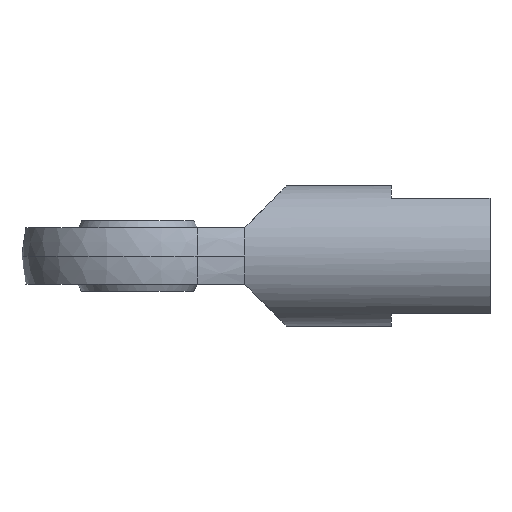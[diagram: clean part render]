
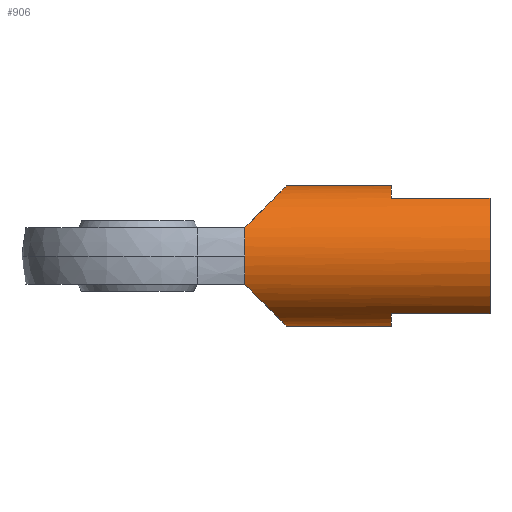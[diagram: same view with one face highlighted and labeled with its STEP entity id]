
A CAD part, front view. The second image highlights one B-rep face of the part: STEP entity #906.
In plain terms, the highlighted cylindrical face has radius 25 mm (diameter 50 mm), a partial arc.
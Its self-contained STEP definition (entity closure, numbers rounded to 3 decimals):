
#33 = CARTESIAN_POINT ( 'NONE',  ( 90., 0., -25. ) ) ;
#343 = DIRECTION ( 'NONE',  ( 1., 0., 0. ) ) ;
#344 = VECTOR ( 'NONE', #343, 1000. ) ;
#345 = CARTESIAN_POINT ( 'NONE',  ( 38., 0., 25. ) ) ;
#346 = LINE ( 'NONE', #345, #344 ) ;
#361 = CARTESIAN_POINT ( 'NONE',  ( 90., 0., 25. ) ) ;
#400 = DIRECTION ( 'NONE',  ( 1., 0., 0. ) ) ;
#401 = CARTESIAN_POINT ( 'NONE',  ( 38., 0., 0. ) ) ;
#402 = AXIS2_PLACEMENT_3D ( 'NONE', #401, #400, #414 ) ;
#403 = CIRCLE ( 'NONE', #402, 25. ) ;
#413 = CARTESIAN_POINT ( 'NONE',  ( 38., -25., 0. ) ) ;
#414 = DIRECTION ( 'NONE',  ( 0., 1., 0. ) ) ;
#429 = CARTESIAN_POINT ( 'NONE',  ( 38., -22.913, -10. ) ) ;
#751 = DIRECTION ( 'NONE',  ( 0., 0., 1. ) ) ;
#752 = DIRECTION ( 'NONE',  ( 1., 0., 0. ) ) ;
#753 = CARTESIAN_POINT ( 'NONE',  ( 90., 0., 0. ) ) ;
#754 = AXIS2_PLACEMENT_3D ( 'NONE', #753, #752, #751 ) ;
#755 = CIRCLE ( 'NONE', #754, 25. ) ;
#757 = CARTESIAN_POINT ( 'NONE',  ( 90., -14.309, -20.5 ) ) ;
#817 = ORIENTED_EDGE ( 'NONE', *, *, #825, .F. ) ;
#818 = ORIENTED_EDGE ( 'NONE', *, *, #946, .F. ) ;
#825 = EDGE_CURVE ( 'NONE', #945, #1322, #1399, .T. ) ;
#875 = ORIENTED_EDGE ( 'NONE', *, *, #1121, .T. ) ;
#876 = ORIENTED_EDGE ( 'NONE', *, *, #877, .F. ) ;
#877 = EDGE_CURVE ( 'NONE', #1019, #1130, #1401, .T. ) ;
#878 = ORIENTED_EDGE ( 'NONE', *, *, #1018, .T. ) ;
#884 = EDGE_LOOP ( 'NONE', ( #885, #886, #893, #875, #876, #878, #1145, #817, #818, #932, #935 ) ) ;
#885 = ORIENTED_EDGE ( 'NONE', *, *, #1090, .F. ) ;
#886 = ORIENTED_EDGE ( 'NONE', *, *, #891, .F. ) ;
#891 = EDGE_CURVE ( 'NONE', #892, #1023, #1409, .T. ) ;
#892 = VERTEX_POINT ( 'NONE', #1382 ) ;
#893 = ORIENTED_EDGE ( 'NONE', *, *, #915, .T. ) ;
#906 = ADVANCED_FACE ( 'NONE', ( #1570 ), #1569, .T. ) ;
#915 = EDGE_CURVE ( 'NONE', #892, #1122, #1517, .T. ) ;
#930 = VERTEX_POINT ( 'NONE', #1623 ) ;
#932 = ORIENTED_EDGE ( 'NONE', *, *, #934, .F. ) ;
#933 = VERTEX_POINT ( 'NONE', #1620 ) ;
#934 = EDGE_CURVE ( 'NONE', #933, #930, #1567, .T. ) ;
#935 = ORIENTED_EDGE ( 'NONE', *, *, #936, .F. ) ;
#936 = EDGE_CURVE ( 'NONE', #1091, #933, #1562, .T. ) ;
#945 = VERTEX_POINT ( 'NONE', #1455 ) ;
#946 = EDGE_CURVE ( 'NONE', #930, #945, #1454, .T. ) ;
#1018 = EDGE_CURVE ( 'NONE', #1019, #1066, #1592, .T. ) ;
#1019 = VERTEX_POINT ( 'NONE', #1588 ) ;
#1023 = VERTEX_POINT ( 'NONE', #1585 ) ;
#1066 = VERTEX_POINT ( 'NONE', #33 ) ;
#1090 = EDGE_CURVE ( 'NONE', #1023, #1091, #346, .T. ) ;
#1091 = VERTEX_POINT ( 'NONE', #361 ) ;
#1121 = EDGE_CURVE ( 'NONE', #1122, #1130, #403, .T. ) ;
#1122 = VERTEX_POINT ( 'NONE', #413 ) ;
#1130 = VERTEX_POINT ( 'NONE', #429 ) ;
#1145 = ORIENTED_EDGE ( 'NONE', *, *, #1323, .F. ) ;
#1322 = VERTEX_POINT ( 'NONE', #757 ) ;
#1323 = EDGE_CURVE ( 'NONE', #1322, #1066, #755, .T. ) ;
#1363 = CARTESIAN_POINT ( 'NONE',  ( 38., -22.913, -10. ) ) ;
#1364 = CARTESIAN_POINT ( 'NONE',  ( 47.389, -18.815, -19.389 ) ) ;
#1365 = CARTESIAN_POINT ( 'NONE',  ( 53., -10.244, -25. ) ) ;
#1366 = CARTESIAN_POINT ( 'NONE',  ( 53., 0., -25. ) ) ;
#1378 = CARTESIAN_POINT ( 'NONE',  ( 53., 0., 25. ) ) ;
#1379 = CARTESIAN_POINT ( 'NONE',  ( 53., -10.244, 25. ) ) ;
#1380 = CARTESIAN_POINT ( 'NONE',  ( 47.389, -18.815, 19.389 ) ) ;
#1381 = CARTESIAN_POINT ( 'NONE',  ( 38., -22.913, 10. ) ) ;
#1382 = CARTESIAN_POINT ( 'NONE',  ( 38., -22.913, 10. ) ) ;
#1384 = DIRECTION ( 'NONE',  ( -1., 0., 0. ) ) ;
#1385 = VECTOR ( 'NONE', #1384, 1000. ) ;
#1398 = CARTESIAN_POINT ( 'NONE',  ( 38., -14.309, -20.5 ) ) ;
#1399 = LINE ( 'NONE', #1398, #1385 ) ;
#1401 =( BOUNDED_CURVE ( )  B_SPLINE_CURVE ( 3, ( #1366, #1365, #1364, #1363 ),
 .UNSPECIFIED., .F., .T. ) 
 B_SPLINE_CURVE_WITH_KNOTS ( ( 4, 4 ),
 ( 0., 1.159 ),
 .UNSPECIFIED. ) 
 CURVE ( )  GEOMETRIC_REPRESENTATION_ITEM ( )  RATIONAL_B_SPLINE_CURVE ( ( 1., 0.891, 0.891, 1. ) ) 
 REPRESENTATION_ITEM ( '' )  );
#1409 =( BOUNDED_CURVE ( )  B_SPLINE_CURVE ( 3, ( #1381, #1380, #1379, #1378 ),
 .UNSPECIFIED., .F., .T. ) 
 B_SPLINE_CURVE_WITH_KNOTS ( ( 4, 4 ),
 ( 5.124, 6.283 ),
 .UNSPECIFIED. ) 
 CURVE ( )  GEOMETRIC_REPRESENTATION_ITEM ( )  RATIONAL_B_SPLINE_CURVE ( ( 1., 0.891, 0.891, 1. ) ) 
 REPRESENTATION_ITEM ( '' )  );
#1450 = DIRECTION ( 'NONE',  ( 0., 0., -1. ) ) ;
#1451 = DIRECTION ( 'NONE',  ( 1., 0., 0. ) ) ;
#1452 = CARTESIAN_POINT ( 'NONE',  ( 125., 0., 0. ) ) ;
#1453 = AXIS2_PLACEMENT_3D ( 'NONE', #1452, #1451, #1450 ) ;
#1454 = CIRCLE ( 'NONE', #1453, 25. ) ;
#1455 = CARTESIAN_POINT ( 'NONE',  ( 125., -14.309, -20.5 ) ) ;
#1502 = DIRECTION ( 'NONE',  ( 0., 0., -1. ) ) ;
#1513 = DIRECTION ( 'NONE',  ( 0., 1., 0. ) ) ;
#1514 = DIRECTION ( 'NONE',  ( 1., 0., 0. ) ) ;
#1515 = CARTESIAN_POINT ( 'NONE',  ( 38., 0., 0. ) ) ;
#1516 = AXIS2_PLACEMENT_3D ( 'NONE', #1515, #1514, #1513 ) ;
#1517 = CIRCLE ( 'NONE', #1516, 25. ) ;
#1558 = DIRECTION ( 'NONE',  ( 0., 0., 1. ) ) ;
#1559 = DIRECTION ( 'NONE',  ( 1., 0., 0. ) ) ;
#1560 = CARTESIAN_POINT ( 'NONE',  ( 90., 0., 0. ) ) ;
#1561 = AXIS2_PLACEMENT_3D ( 'NONE', #1560, #1559, #1558 ) ;
#1562 = CIRCLE ( 'NONE', #1561, 25. ) ;
#1564 = DIRECTION ( 'NONE',  ( 1., 0., 0. ) ) ;
#1565 = VECTOR ( 'NONE', #1564, 1000. ) ;
#1566 = CARTESIAN_POINT ( 'NONE',  ( 38., -14.309, 20.5 ) ) ;
#1567 = LINE ( 'NONE', #1566, #1565 ) ;
#1568 = AXIS2_PLACEMENT_3D ( 'NONE', #1572, #1571, #1502 ) ;
#1569 = CYLINDRICAL_SURFACE ( 'NONE', #1568, 25. ) ;
#1570 = FACE_OUTER_BOUND ( 'NONE', #884, .T. ) ;
#1571 = DIRECTION ( 'NONE',  ( 1., 0., 0. ) ) ;
#1572 = CARTESIAN_POINT ( 'NONE',  ( 38., 0., 0. ) ) ;
#1585 = CARTESIAN_POINT ( 'NONE',  ( 53., 0., 25. ) ) ;
#1588 = CARTESIAN_POINT ( 'NONE',  ( 53., 0., -25. ) ) ;
#1589 = DIRECTION ( 'NONE',  ( 1., 0., 0. ) ) ;
#1590 = VECTOR ( 'NONE', #1589, 1000. ) ;
#1591 = CARTESIAN_POINT ( 'NONE',  ( 38., 0., -25. ) ) ;
#1592 = LINE ( 'NONE', #1591, #1590 ) ;
#1620 = CARTESIAN_POINT ( 'NONE',  ( 90., -14.309, 20.5 ) ) ;
#1623 = CARTESIAN_POINT ( 'NONE',  ( 125., -14.309, 20.5 ) ) ;
